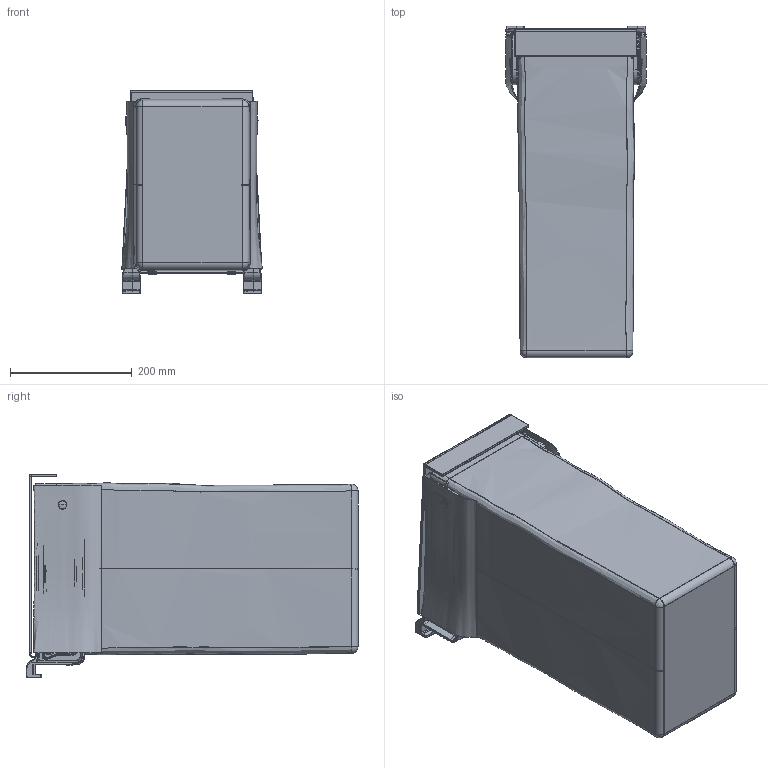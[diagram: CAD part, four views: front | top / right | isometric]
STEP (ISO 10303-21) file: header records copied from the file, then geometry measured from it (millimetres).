
FILE_DESCRIPTION((''),'2;1');
FILE_NAME('238737_SW0001','2024-06-24T10:37:16',('1za37'),('Kesseboehmer'),'CREO PARAMETRIC BY PTC INC, 2020414','CREO PARAMETRIC BY PTC INC, 2020414','');
FILE_SCHEMA(('AUTOMOTIVE_DESIGN { 1 0 10303 214 1 1 1 1 }'));
Products named in the file (1): 238737_SW0001
Bounding box: 230.98 x 545.05 x 334.58 mm (x, y, z)
Volume: 1020253.7 mm3; surface area: 1628627.4 mm2
Topology: 1 solids, 3 shells, 3288 faces, 8285 edges, 5122 vertices
Faces by surface type: plane 1130, cylinder 713, extrusion 687, bspline 289, torus 275, sphere 126, cone 68
Entity records: 148411 total; most frequent: CARTESIAN_POINT 73990, ORIENTED_EDGE 16538, DIRECTION 13002, EDGE_CURVE 8269, VERTEX_POINT 5122, VECTOR 4936, LINE 4249, AXIS2_PLACEMENT_3D 4033
